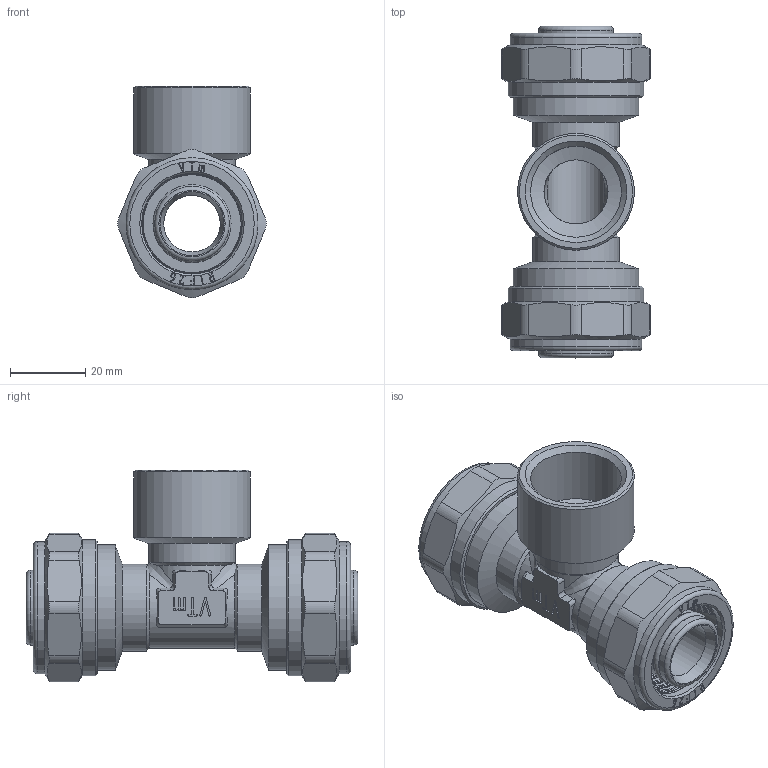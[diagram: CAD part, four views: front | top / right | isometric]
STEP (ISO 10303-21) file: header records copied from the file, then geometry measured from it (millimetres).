
FILE_DESCRIPTION(('STEP AP203'), '1');
FILE_NAME('VTm.332.N.260526', '', ('UNSPECIFIED'), ('UNSPECIFIED'), 'C3D Converter', 'C3D Toolkit', '');
FILE_SCHEMA(('CONFIG_CONTROL_DESIGN'));
Length unit declared in the file: millimetre
Products named in the file (1): ВР.302635.073.000 СБ
Bounding box: 39.39 x 88 x 56.19 mm (x, y, z)
Volume: 42807.7 mm3; surface area: 30922 mm2
Topology: 1 solids, 1 shells, 768 faces, 2108 edges, 1389 vertices
Faces by surface type: extrusion 324, plane 255, cylinder 94, torus 58, cone 33, bspline 2, sphere 2
Full cylindrical faces by diameter (mm): 15 x1, 17 x1, 17.4 x8, 19.8 x10, 20 x2, 23 x3, 24.118 x1, 26.2 x2, 26.7 x2, 30.292 x2, 31 x1, 33.249 x2, 35 x2, 36 x2
Entity records: 28833 total; most frequent: CARTESIAN_POINT 11324, ORIENTED_EDGE 4026, DIRECTION 2524, EDGE_CURVE 2013, VERTEX_POINT 1389, VECTOR 1228, B_SPLINE_CURVE_WITH_KNOTS 1166, EDGE_LOOP 914
